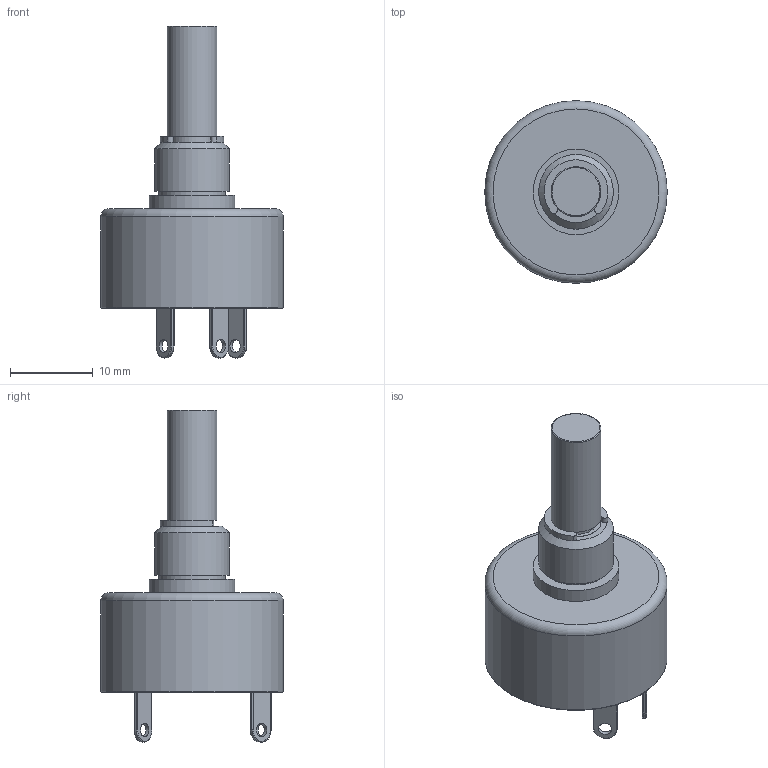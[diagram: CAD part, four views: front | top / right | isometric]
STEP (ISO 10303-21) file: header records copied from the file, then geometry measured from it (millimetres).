
FILE_DESCRIPTION (( 'STEP AP214' ), '1' );
FILE_NAME ('RP22-RP23.STEP', '2019-05-07T13:53:27', ( '' ), ( '' ), 'SwSTEP 2.0', 'SolidWorks 2017', '' );
FILE_SCHEMA (( 'AUTOMOTIVE_DESIGN' ));
Length unit declared in the file: millimetre
Products named in the file (7): RP22-RP23; RP22-Standard-RücksDeckel; RP22-Standard-Bushing-M9; RP22-Standard-Welle; RP22-Standard-Gehäuse; RP22-Standard-Lötzunge; Clip_B27.8M - 3FM1-6
Assembly tree (8 placements, depth 2):
  RP22-RP23
    RP22-Standard-Gehäuse
    RP22-Standard-Bushing-M9
    Clip_B27.8M - 3FM1-6
    RP22-Standard-RücksDeckel
    RP22-Standard-Lötzunge  x3
    RP22-Standard-Welle
Bounding box: 22 x 22 x 40.01 mm (x, y, z)
Volume: 5270.6 mm3; surface area: 3935.8 mm2
Topology: 8 solids, 8 shells, 81 faces, 163 edges, 103 vertices
Faces by surface type: cylinder 36, plane 32, torus 12, cone 1
Full cylindrical faces by diameter (mm): 1.6 x3, 5 x1, 6 x3, 8 x1, 9 x1, 10.32 x1, 21.2 x2, 22 x1
Entity records: 1617 total; most frequent: DIRECTION 274, CARTESIAN_POINT 216, ORIENTED_EDGE 170, AXIS2_PLACEMENT_3D 123, EDGE_CURVE 85, EDGE_LOOP 82, FACE_OUTER_BOUND 72, VERTEX_POINT 65
